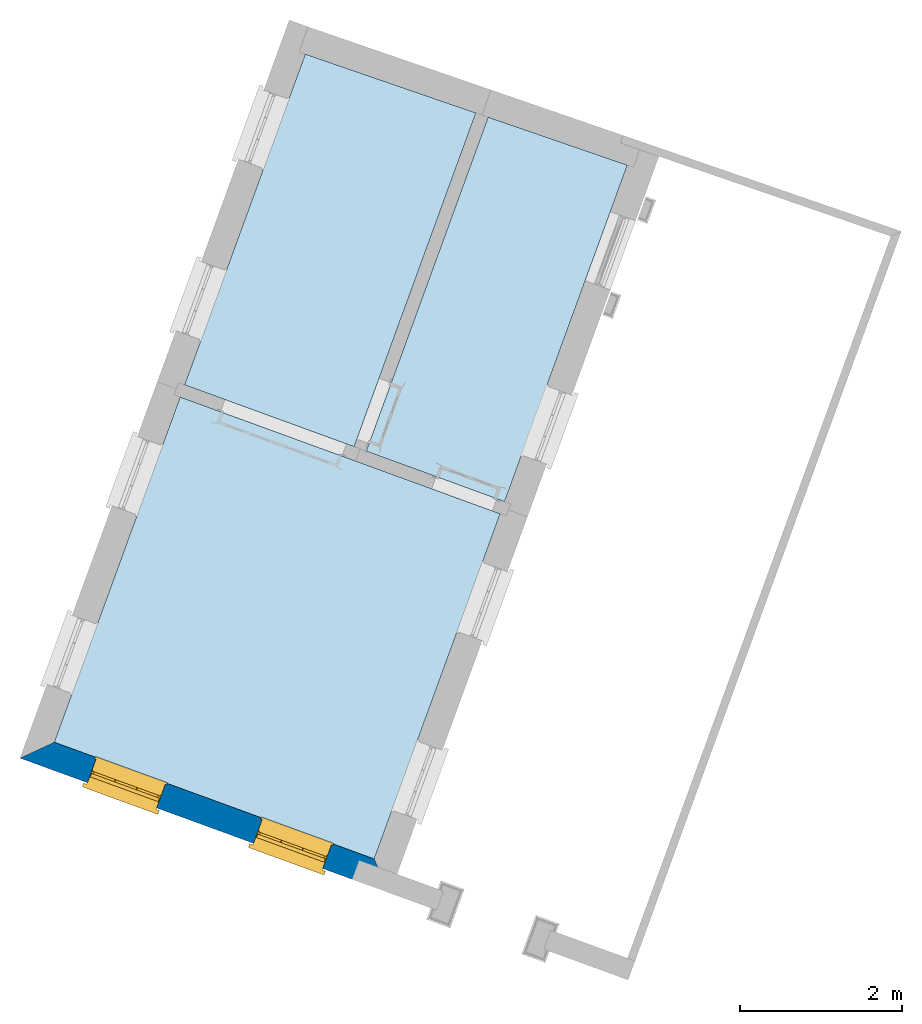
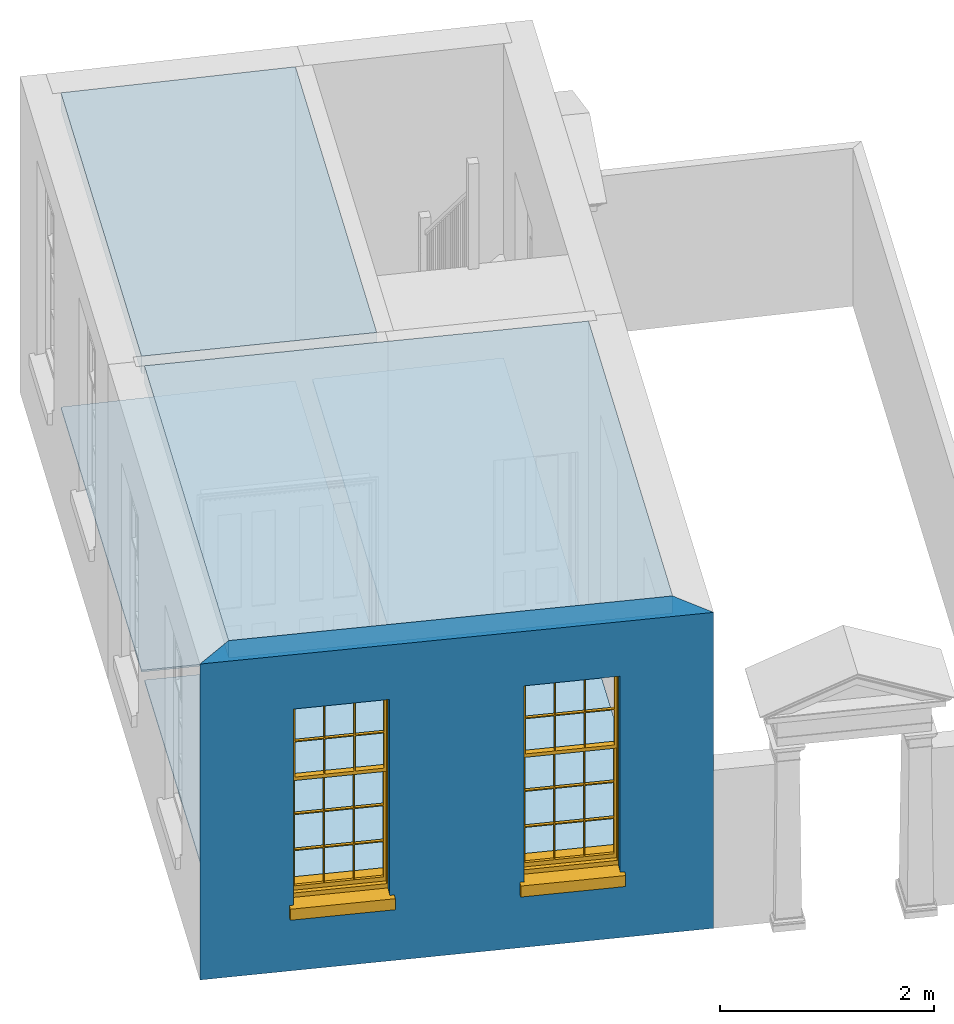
# One storey, part 1 of 6: 5 slabs, 2 windows, 1 wall, 2 openings.
"""IFC4 building model written with IfcOpenShell, lengths in metres."""

from ifc_helpers import new_model, si_unit, frame, origin, origin_with_axes, place, context, subcontext, project, spatial, polyline, outline, extrude, faceted_brep, source, transform, mapped, material, layer, layer_set, layer_usage, type_object, type_shapes, element, fill, save


model = new_model("IFC4")

# Units and contexts
model_context = context("Model", 3, world=origin_with_axes())
body_context = subcontext(model_context, "Body", "Model", "MODEL_VIEW")
ifc_project = project(units=[si_unit("PLANEANGLEUNIT", "RADIAN"), si_unit("MASSUNIT", "GRAM", prefix="KILO"), si_unit("FORCEUNIT", "NEWTON", prefix="KILO"), si_unit("LENGTHUNIT", "METRE"), si_unit("AREAUNIT", "SQUARE_METRE"), si_unit("VOLUMEUNIT", "CUBIC_METRE")], contexts=[model_context, model_context])

# Sites, building, storey
site_1_placement = place(None, origin_with_axes())
site_1 = spatial("IfcSite", under=ifc_project, at=site_1_placement, Name="Tamar")
site_2_placement = place(site_1_placement, origin_with_axes())
site_2 = spatial("IfcSite", under=site_1, at=site_2_placement, Name="Site plot-12", CompositionType="ELEMENT")
building_placement = place(None, origin_with_axes())
building = spatial("IfcBuilding", under=site_2, at=building_placement, Name="Building plot-12", CompositionType="ELEMENT")
storey_placement = place(None, frame((0.0, 0.0, 26.0), z_axis=(0.0, 0.0, 1.0), x_axis=(1.0, 0.0, 0.0)))
storey = spatial("IfcBuildingStorey", under=building, at=storey_placement, Name="plot-12 0", CompositionType="ELEMENT", Elevation=26.0)

# Slabs
slab_1_placement = place(storey_placement, frame((240.951836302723, 308.584632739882, 0.0)))
element("IfcSlab", 1, at=slab_1_placement, inside=storey, Name="My Slab", ObjectType="Slab", PredefinedType="FLOOR", context=body_context, shape_type="SweptSolid", body=[
    extrude(outline(polyline([(0.0, 0.0), (-1.72015586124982, 0.592914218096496), (-3.22600019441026, -3.5345915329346), (-1.51700173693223, -4.15808809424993), (0.0, 0.0)])), origin_with_axes(), (0.0, 0.0, 1.0), 0.02),
])
slab_2_placement = place(storey_placement, frame((239.080389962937, 309.229694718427, 3.4)))
element("IfcSlab", 2, at=slab_2_placement, inside=storey, Name="My Slab", ObjectType="Slab", PredefinedType="FLOOR", context=body_context, shape_type="SweptSolid", body=[
    extrude(outline(polyline([(0.0, 0.0), (-2.10846795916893, 0.72676009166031), (-3.59965487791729, -3.36056981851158), (-1.50486302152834, -4.12481598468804), (0.0, 0.0)])), origin_with_axes(), (0.0, 0.0, 1.0), 0.2),
])
slab_3_placement = place(storey_placement, frame((239.080389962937, 309.229694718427, 0.0)))
element("IfcSlab", 3, at=slab_3_placement, inside=storey, Name="My Slab", ObjectType="Slab", PredefinedType="FLOOR", context=body_context, shape_type="SweptSolid", body=[
    extrude(outline(polyline([(0.0, 0.0), (-2.10846795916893, 0.72676009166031), (-3.59965487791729, -3.36056981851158), (-1.50486302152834, -4.12481598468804), (0.0, 0.0)])), origin_with_axes(), (0.0, 0.0, 1.0), 0.02),
])
slab_4_placement = place(storey_placement, frame((235.425897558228, 305.718815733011, 3.4)))
element("IfcSlab", 4, at=slab_4_placement, inside=storey, Name="My Slab", ObjectType="Slab", PredefinedType="FLOOR", context=body_context, shape_type="SweptSolid", body=[
    extrude(outline(polyline([(0.0, 0.0), (-1.55619557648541, -4.26551805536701), (2.39790390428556, -5.70809830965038), (3.95409948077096, -1.44258025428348), (0.0, 0.0)])), origin_with_axes(), (0.0, 0.0, 1.0), 0.2),
])
slab_5_placement = place(storey_placement, frame((235.425897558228, 305.718815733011, 0.0)))
element("IfcSlab", 5, at=slab_5_placement, inside=storey, Name="My Slab", ObjectType="Slab", PredefinedType="FLOOR", context=body_context, shape_type="SweptSolid", body=[
    extrude(outline(polyline([(0.0, 0.0), (-1.55619557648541, -4.26551805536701), (2.39790390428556, -5.70809830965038), (3.95409948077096, -1.44258025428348), (0.0, 0.0)])), origin_with_axes(), (0.0, 0.0, 1.0), 0.02),
])

# Wall, openings, windows
ifc_material = material(Name="Masonry")
ifc_layer = layer(ifc_material, 0.33, ventilated=False)
ifc_layer_set = layer_set([ifc_layer], Name="exterior_0.08_0.25")
ifc_layer_usage = layer_usage(ifc_layer_set, "AXIS2", "POSITIVE", -0.25)
wall_type = type_object("IfcWallType", Name="exterior_0.08_0.25", PredefinedType="SOLIDWALL", material=ifc_layer_set)
wall_placement = place(storey_placement, frame((233.767128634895, 301.405561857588, 0.0), z_axis=(0.0, 0.0, 1.0), x_axis=(0.939432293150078, -0.34273454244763, 0.0)))
wall = element("IfcWall", 6, at=wall_placement, inside=storey, type_object=wall_type, material=ifc_layer_usage, Name="exterior", context=body_context, shape_type="SweptSolid", body=[
    extrude(outline(polyline([(0.0799999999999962, 0.0799999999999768), (-0.24999999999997, -0.249999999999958), (4.61903082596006, -0.24999999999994), (4.28903082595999, 0.0799999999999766), (0.0799999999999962, 0.0799999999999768)])), origin_with_axes(), (0.0, 0.0, 1.0), 3.6),
])
opening_1_placement = place(wall_placement, frame((0.637257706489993, 0.0, 0.75)))
opening_1 = element("IfcOpeningElement", 7, at=opening_1_placement, cuts=wall, Name="My Opening", ObjectType="Opening", context=body_context, shape_type="SweptSolid", body=[
    extrude(outline(polyline([(0.0, -0.270000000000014), (0.910000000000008, -0.270000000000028), (0.909999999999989, 1.10000000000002), (-1.88737914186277e-14, 1.10000000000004), (0.0, -0.270000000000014)])), origin_with_axes(), (0.0, 0.0, 1.0), 2.23),
])
opening_2_placement = place(wall_placement, frame((2.82177311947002, 0.0, 0.75)))
opening_2 = element("IfcOpeningElement", 8, at=opening_2_placement, cuts=wall, Name="My Opening", ObjectType="Opening", context=body_context, shape_type="SweptSolid", body=[
    extrude(outline(polyline([(0.0, -0.27000000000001), (0.910000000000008, -0.270000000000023), (0.909999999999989, 1.10000000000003), (-1.86517468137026e-14, 1.10000000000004), (0.0, -0.27000000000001)])), origin_with_axes(), (0.0, 0.0, 1.0), 2.23),
])
window_type = type_object("IfcWindowType", Name="sash_big_taller", PartitioningType="DOUBLE_PANEL_HORIZONTAL", PredefinedType="NOTDEFINED")
shared_shape = source(origin(), body_context, "Body", "Brep", [
    faceted_brep([(0.033125, 0.145, 1.385209), (0.01, 0.145, 1.385209), (0.033125, 0.145, 1.786042), (0.876875, 0.145, 1.385209), (0.876875, 0.145, 1.786042), (0.9, 0.145, 1.385209), (0.876875, 0.145, 1.796042), (0.876875, 0.145, 2.196875), (0.9, 0.145, 2.22), (0.033125, 0.145, 2.196875), (0.033125, 0.145, 1.796042), (0.01, 0.145, 2.22), (0.876875, 0.115, 1.786042), (0.876875, 0.115, 1.385209), (0.9, 0.115, 1.347084), (0.033125, 0.115, 2.196875), (0.01, 0.115, 2.22), (0.033125, 0.115, 1.796042), (0.01, 0.115, 1.347084), (0.033125, 0.115, 1.385209), (0.033125, 0.115, 1.786042), (0.876875, 0.115, 2.196875), (0.876875, 0.115, 1.796042), (0.9, 0.115, 2.22), (0.033125, 0.145, 1.347084), (0.01, 0.145, 1.347084), (0.033125, 0.145, 0.94625), (0.876875, 0.145, 1.347084), (0.876875, 0.145, 0.94625), (0.9, 0.145, 1.347084), (0.876875, 0.145, 0.52625), (0.876875, 0.145, 0.125417), (0.9, 0.145, 0.077167), (0.033125, 0.145, 0.125417), (0.033125, 0.145, 0.52625), (0.01, 0.145, 0.077167), (-0.0425, 0.0, 0.01), (-0.0425, -0.05, 0.001667), (0.0, 0.0, 0.01), (0.9525, 0.0, 0.01), (0.91, 0.0, 0.01), (0.9525, -0.05, 0.001667), (-0.02, 0.33, 0.077167), (0.0, 0.33, 0.077167), (-0.02, 0.36, 0.077167), (0.0, 0.19, 0.077167), (0.01, 0.19, 0.077167), (0.91, 0.19, 0.077167), (0.91, 0.33, 0.077167), (0.9, 0.19, 0.077167), (0.93, 0.33, 0.077167), (0.93, 0.36, 0.077167), (0.01, 0.175, 1.385209), (0.9, 0.175, 1.385209), (0.876875, 0.175, 0.125417), (0.876875, 0.175, 0.52625), (0.9, 0.175, 0.077167), (0.876875, 0.175, 0.94625), (0.876875, 0.175, 1.347084), (0.033125, 0.175, 0.125417), (0.01, 0.175, 0.077167), (0.033125, 0.175, 0.52625), (0.033125, 0.175, 1.347084), (0.033125, 0.175, 0.94625), (-0.02, 0.33, 0.052167), (-0.02, 0.36, 0.052167), (0.93, 0.36, 0.052167), (0.93, 0.33, 0.052167), (0.91, 0.33, 0.052167), (0.0, 0.33, 0.052167), (0.91, 0.1, 0.026667), (0.0, 0.1, 0.026667), (-0.0425, -0.05, -0.123333), (0.9525, -0.05, -0.123333), (-0.0425, 0.0, -0.123333), (0.9525, 0.0, -0.123333), (0.01, 0.19, 2.22), (0.9, 0.19, 2.22), (0.0, 0.19, 2.23), (0.91, 0.19, 2.23), (0.01, 0.1, 0.077167), (0.9, 0.1, 0.077167), (0.592292, 0.145, 0.125417), (0.592292, 0.175, 0.125417), (0.317708, 0.175, 0.125417), (0.317708, 0.145, 0.125417), (0.592292, 0.145, 0.53625), (0.317708, 0.145, 0.53625), (0.317708, 0.145, 0.52625), (0.592292, 0.145, 0.52625), (0.592292, 0.175, 0.53625), (0.317708, 0.175, 0.53625), (0.592292, 0.115, 1.796042), (0.592292, 0.145, 1.796042), (0.317708, 0.145, 1.796042), (0.317708, 0.115, 1.796042), (0.317708, 0.115, 1.786042), (0.592292, 0.115, 1.786042), (0.317708, 0.145, 1.786042), (0.592292, 0.145, 1.786042), (0.602292, 0.115, 1.786042), (0.592292, 0.115, 1.385209), (0.602292, 0.115, 1.385209), (0.602292, 0.145, 1.385209), (0.592292, 0.145, 1.385209), (0.602292, 0.145, 1.786042), (0.876875, 0.145, 0.53625), (0.876875, 0.175, 0.53625), (0.602292, 0.175, 0.53625), (0.602292, 0.145, 0.53625), (0.317708, 0.175, 0.52625), (0.307708, 0.175, 0.125417), (0.307708, 0.175, 0.52625), (0.602292, 0.175, 0.52625), (0.602292, 0.175, 0.125417), (0.592292, 0.175, 0.52625), (0.307708, 0.175, 0.53625), (0.033125, 0.175, 0.53625), (0.317708, 0.175, 1.347084), (0.317708, 0.175, 0.94625), (0.307708, 0.175, 0.94625), (0.307708, 0.175, 1.347084), (0.602292, 0.175, 1.347084), (0.602292, 0.175, 0.94625), (0.592292, 0.175, 0.94625), (0.592292, 0.175, 1.347084), (0.307708, 0.145, 0.52625), (0.307708, 0.145, 0.125417), (0.307708, 0.145, 0.53625), (0.033125, 0.145, 0.53625), (0.307708, 0.145, 1.347084), (0.307708, 0.145, 0.94625), (0.592292, 0.145, 1.347084), (0.592292, 0.145, 0.94625), (0.317708, 0.145, 0.94625), (0.317708, 0.145, 1.347084), (0.602292, 0.145, 0.94625), (0.602292, 0.145, 1.347084), (0.602292, 0.145, 0.52625), (0.602292, 0.145, 0.125417), (0.307708, 0.115, 1.796042), (0.307708, 0.115, 1.786042), (0.307708, 0.115, 1.385209), (0.317708, 0.115, 1.385209), (0.317708, 0.115, 2.196875), (0.307708, 0.115, 2.196875), (0.602292, 0.115, 2.196875), (0.592292, 0.115, 2.196875), (0.602292, 0.115, 1.796042), (0.602292, 0.145, 1.796042), (0.307708, 0.145, 1.796042), (0.307708, 0.145, 2.196875), (0.317708, 0.145, 2.196875), (0.592292, 0.145, 2.196875), (0.602292, 0.145, 2.196875), (0.307708, 0.145, 1.786042), (0.317708, 0.145, 1.385209), (0.307708, 0.145, 1.385209), (0.876875, 0.175, 0.93625), (0.033125, 0.175, 0.93625), (0.033125, 0.145, 0.93625), (0.876875, 0.145, 0.93625), (0.91, 0.1, 2.23), (0.9, 0.1, 2.22), (0.01, 0.1, 2.22), (0.0, 0.1, 2.23), (0.91, 0.0, 0.0), (0.0, 0.0, 0.0), (0.91, 0.33, 0.0), (0.0, 0.33, 0.0), (0.317708, 0.145, 0.93625), (0.592292, 0.145, 0.93625), (0.317708, 0.175, 0.93625), (0.307708, 0.175, 0.93625), (0.602292, 0.175, 0.93625), (0.592292, 0.175, 0.93625), (0.307708, 0.145, 0.93625), (0.602292, 0.145, 0.93625)], [[[0, 1, 2]], [[3, 4, 5]], [[6, 7, 8]], [[9, 10, 11]], [[12, 13, 14]], [[15, 16, 17]], [[18, 19, 20]], [[21, 22, 23]], [[24, 25, 26]], [[27, 28, 29]], [[30, 31, 32]], [[33, 34, 35]], [[14, 27, 29]], [[25, 24, 18]], [[36, 37, 38]], [[39, 40, 41]], [[42, 43, 44]], [[45, 46, 43]], [[47, 48, 49]], [[50, 51, 48]], [[1, 0, 52]], [[5, 53, 3]], [[54, 55, 56]], [[57, 58, 53]], [[59, 60, 61]], [[62, 63, 52]], [[48, 43, 46, 49]], [[51, 44, 43, 48]], [[64, 42, 44, 65]], [[65, 44, 51, 66]], [[66, 51, 50, 67]], [[65, 66, 68, 69]], [[60, 56, 49, 46]], [[70, 71, 38, 40]], [[37, 41, 40, 38]], [[37, 72, 73, 41]], [[74, 75, 73, 72]], [[8, 11, 76, 77]], [[76, 78, 79, 77]], [[32, 35, 80, 81]], [[81, 80, 71, 70]], [[82, 83, 84, 85]], [[86, 87, 88, 89]], [[86, 90, 91, 87]], [[92, 93, 94, 95]], [[92, 95, 96, 97]], [[96, 98, 99, 97]], [[100, 97, 101, 102]], [[103, 104, 99, 105]], [[97, 99, 104, 101]], [[102, 103, 105, 100]], [[106, 107, 108, 109]], [[110, 84, 111, 112]], [[113, 114, 83, 115]], [[116, 112, 61, 117]], [[90, 115, 110, 91]], [[118, 119, 120, 121]], [[122, 123, 124, 125]], [[113, 108, 107, 55]], [[126, 112, 111, 127]], [[34, 61, 112, 126]], [[89, 115, 83, 82]], [[88, 110, 115, 89]], [[85, 84, 110, 88]], [[128, 116, 117, 129]], [[130, 121, 120, 131]], [[132, 125, 124, 133]], [[134, 119, 118, 135]], [[136, 123, 122, 137]], [[138, 113, 55, 30]], [[139, 114, 113, 138]], [[138, 30, 106, 109]], [[88, 126, 127, 85]], [[138, 89, 82, 139]], [[137, 132, 133, 136]], [[128, 129, 34, 126]], [[135, 130, 131, 134]], [[140, 17, 20, 141]], [[96, 141, 142, 143]], [[144, 145, 140, 95]], [[146, 147, 92, 148]], [[100, 12, 22, 148]], [[149, 6, 4, 105]], [[94, 150, 151, 152]], [[149, 93, 153, 154]], [[99, 98, 94, 93]], [[155, 2, 10, 150]], [[156, 157, 155, 98]], [[141, 155, 157, 142]], [[20, 2, 155, 141]], [[143, 156, 98, 96]], [[140, 150, 10, 17]], [[145, 151, 150, 140]], [[147, 153, 93, 92]], [[95, 94, 152, 144]], [[22, 6, 149, 148]], [[148, 149, 154, 146]], [[100, 105, 4, 12]], [[109, 86, 89, 138]], [[108, 113, 115, 90]], [[91, 110, 112, 116]], [[87, 128, 126, 88]], [[97, 100, 148, 92]], [[141, 96, 95, 140]], [[98, 155, 150, 94]], [[105, 99, 93, 149]], [[143, 101, 104, 156]], [[135, 118, 125, 132]], [[144, 152, 153, 147]], [[127, 111, 59, 33]], [[15, 9, 151, 145]], [[146, 154, 7, 21]], [[31, 54, 114, 139]], [[36, 74, 72, 37]], [[39, 41, 73, 75]], [[18, 14, 101, 143]], [[23, 16, 144, 147]], [[83, 56, 60, 84]], [[52, 53, 125, 118]], [[53, 52, 156, 104]], [[11, 8, 153, 152]], [[14, 18, 135, 132]], [[2, 1, 11, 10]], [[8, 5, 4, 6]], [[57, 53, 56, 158]], [[60, 52, 63, 159]], [[26, 25, 35, 160]], [[32, 29, 28, 161]], [[14, 23, 22, 12]], [[18, 20, 17, 16]], [[19, 0, 2, 20]], [[17, 10, 9, 15]], [[12, 4, 3, 13]], [[21, 7, 6, 22]], [[27, 58, 57, 28]], [[30, 55, 54, 31]], [[33, 59, 61, 34]], [[26, 63, 62, 24]], [[5, 8, 77, 53]], [[76, 11, 1, 52]], [[46, 45, 78, 76]], [[49, 77, 79, 47]], [[70, 162, 163, 81]], [[71, 80, 164, 165]], [[19, 142, 157, 0]], [[102, 13, 3, 103]], [[121, 130, 24, 62]], [[29, 32, 81, 14]], [[80, 35, 25, 18]], [[60, 46, 76, 52]], [[77, 49, 56, 53]], [[23, 14, 81, 163]], [[16, 164, 80, 18]], [[35, 85, 127]], [[127, 33, 35]], [[139, 82, 32]], [[32, 31, 139]], [[32, 82, 85, 35]], [[102, 101, 14]], [[14, 13, 102]], [[18, 143, 142]], [[142, 19, 18]], [[146, 21, 23]], [[23, 147, 146]], [[16, 15, 145]], [[145, 144, 16]], [[11, 152, 151]], [[151, 9, 11]], [[154, 153, 8]], [[8, 7, 154]], [[23, 163, 164, 16]], [[162, 165, 164, 163]], [[52, 118, 121]], [[121, 62, 52]], [[125, 53, 122]], [[58, 122, 53]], [[27, 137, 122, 58]], [[56, 83, 114]], [[114, 54, 56]], [[111, 84, 60]], [[60, 59, 111]], [[137, 27, 14]], [[14, 132, 137]], [[130, 135, 18]], [[18, 24, 130]], [[157, 156, 52]], [[52, 0, 157]], [[103, 3, 53]], [[53, 104, 103]], [[79, 78, 165, 162]], [[78, 45, 71, 165]], [[162, 70, 47, 79]], [[166, 75, 74, 167]], [[68, 66, 67]], [[48, 68, 67, 50]], [[69, 64, 65]], [[42, 64, 69, 43]], [[69, 68, 168, 169]], [[70, 68, 48, 47]], [[166, 168, 68, 70]], [[43, 69, 71, 45]], [[69, 169, 167, 71]], [[168, 166, 167, 169]], [[38, 167, 74, 36]], [[71, 167, 38]], [[39, 75, 166, 40]], [[40, 166, 70]], [[133, 134, 170, 171]], [[133, 124, 119, 134]], [[28, 57, 123, 136]], [[172, 91, 116, 173]], [[174, 108, 90, 175]], [[120, 173, 159, 63]], [[124, 175, 172, 119]], [[174, 123, 57, 158]], [[176, 173, 116, 128]], [[160, 159, 173, 176]], [[171, 175, 90, 86]], [[170, 172, 175, 171]], [[87, 91, 172, 170]], [[131, 120, 63, 26]], [[177, 174, 158, 161]], [[109, 108, 174, 177]], [[177, 161, 28, 136]], [[170, 176, 128, 87]], [[177, 171, 86, 109]], [[131, 26, 160, 176]], [[136, 133, 171, 177]], [[123, 174, 175, 124]], [[119, 172, 173, 120]], [[134, 131, 176, 170]], [[129, 117, 159, 160]], [[161, 158, 107, 106]], [[35, 34, 129]], [[35, 129, 160]], [[32, 106, 30]], [[32, 161, 106]], [[56, 55, 107]], [[56, 107, 158]], [[60, 117, 61]], [[60, 159, 117]]]),
])
type_shapes(window_type, [shared_shape])
window_1_placement = place(storey_placement, frame((234.27325077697, 300.933504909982, 0.75), z_axis=(0.0, 0.0, 1.0), x_axis=(0.854883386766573, -0.31188843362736, 0.0)))
window_1 = element("IfcWindow", 9, at=window_1_placement, inside=storey, type_object=window_type, Name="living street window", OverallHeight=2.23, OverallWidth=0.91, context=body_context, shape_type="MappedRepresentation", body=[
    mapped(shared_shape, transform((0.0, 0.0, 0.0), scale=1.0)),
])
fill(opening_1, window_1)
window_2_placement = place(storey_placement, frame((236.325455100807, 300.184796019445, 0.75), z_axis=(0.0, 0.0, 1.0), x_axis=(0.854883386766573, -0.31188843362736, 0.0)))
window_2 = element("IfcWindow", 10, at=window_2_placement, inside=storey, type_object=window_type, Name="living street window", OverallHeight=2.23, OverallWidth=0.91, context=body_context, shape_type="MappedRepresentation", body=[
    mapped(shared_shape, transform((0.0, 0.0, 0.0), scale=1.0)),
])
fill(opening_2, window_2)

save(model, "model.ifc")
